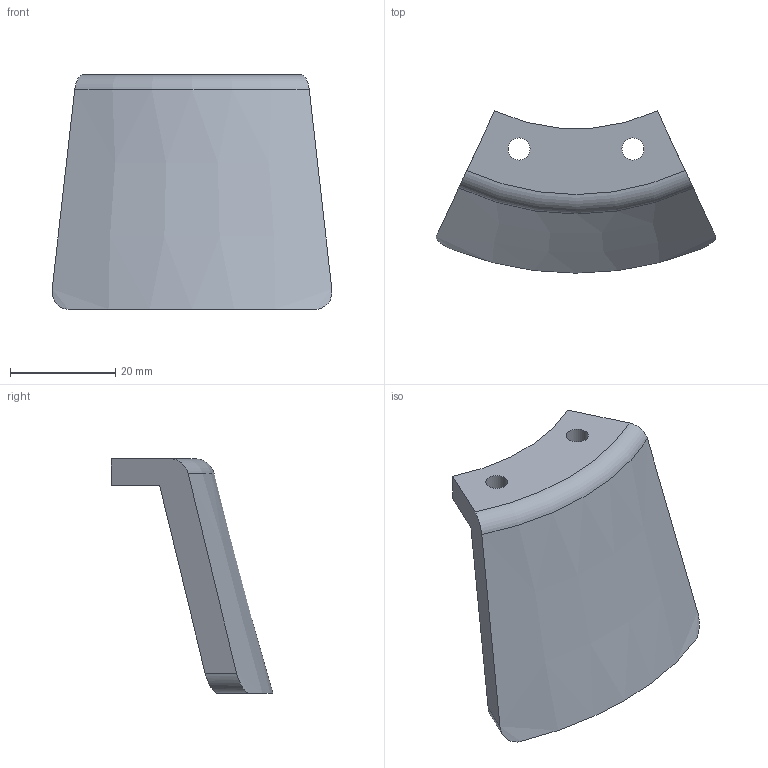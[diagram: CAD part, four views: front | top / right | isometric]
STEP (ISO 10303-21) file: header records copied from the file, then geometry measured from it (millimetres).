
FILE_DESCRIPTION(/* description */ ('STEP AP242 Edition 2','CAx-IF Rec.Pracs.---Representation and Presentation of Product Manufacturing Information (PMI)---4.0---2014-10-13','CAx-IF Rec.Pracs.---3D Tessellated Geometry---0.4---2014-09-14','2;1','CAx-IF Rec.Pracs.---User Defined Attributes---1.5---2016-08-15'),/* implementation_level */ '2;1');
FILE_NAME(/* name */ 'Assembly 1 - stand (2)',/* time_stamp */ '2026-09-25T20:07:30Z',/* author */ (''),/* organization */ (''),/* preprocessor_version */ 'ST-DEVELOPER v20',/* originating_system */ 'ONSHAPE BY PTC INC, 1.221',/* authorisation */ ' ');
FILE_SCHEMA (('AP242_MANAGED_MODEL_BASED_3D_ENGINEERING_MIM_LF { 1 0 10303 442 3 1 4 }'));
Length unit declared in the file: metre
Products named in the file (1): stand
Bounding box: 53.08 x 30.7 x 44.45 mm (x, y, z)
Volume: 15382.3 mm3; surface area: 6320.3 mm2
Topology: 1 solids, 1 shells, 13 faces, 33 edges, 22 vertices
Faces by surface type: cylinder 5, plane 5, cone 2, torus 1
Full cylindrical faces by diameter (mm): 4.191 x2
Entity records: 428 total; most frequent: CARTESIAN_POINT 83, DIRECTION 68, ORIENTED_EDGE 62, EDGE_CURVE 31, AXIS2_PLACEMENT_3D 27, VERTEX_POINT 22, EDGE_LOOP 19, FACE_BOUND 19
